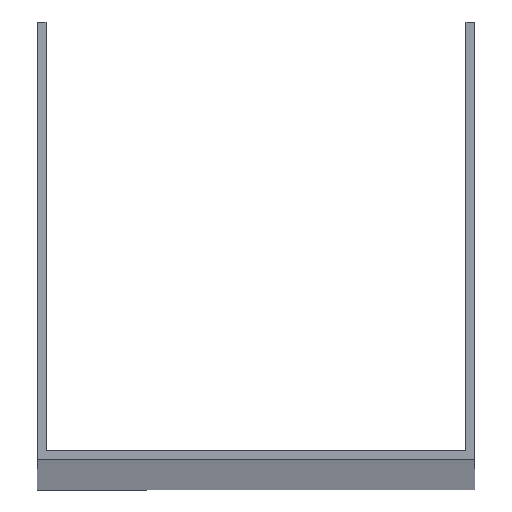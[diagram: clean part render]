
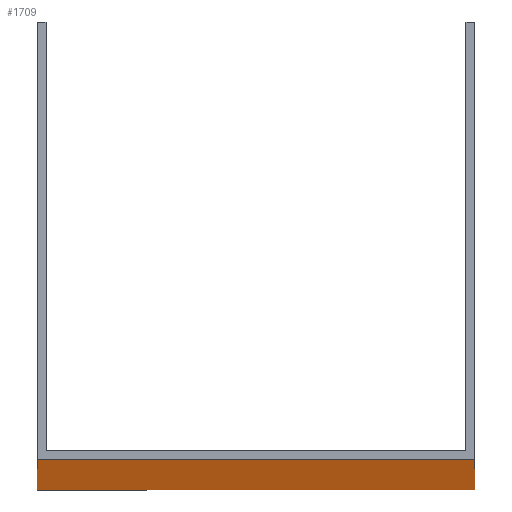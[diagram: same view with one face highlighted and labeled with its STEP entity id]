
A CAD part, top view. The second image highlights one B-rep face of the part: STEP entity #1709.
In plain terms, the highlighted planar face has unit normal (0, -1, 0).
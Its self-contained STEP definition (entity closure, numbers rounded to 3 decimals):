
#11 = CARTESIAN_POINT ( 'NONE',  ( -37.5, 0., 1500. ) ) ;
#45 = ORIENTED_EDGE ( 'NONE', *, *, #2203, .T. ) ;
#52 = CARTESIAN_POINT ( 'NONE',  ( -37.5, 0., -1500. ) ) ;
#89 = DIRECTION ( 'NONE',  ( 0., 1., 0. ) ) ;
#93 = CARTESIAN_POINT ( 'NONE',  ( -37.5, 0., -1500. ) ) ;
#444 = CARTESIAN_POINT ( 'NONE',  ( -37.5, 0., 1500. ) ) ;
#474 = DIRECTION ( 'NONE',  ( -1., 0., 0. ) ) ;
#529 = EDGE_LOOP ( 'NONE', ( #1827, #1521, #1611, #45 ) ) ;
#563 = DIRECTION ( 'NONE',  ( 1., 0., 0. ) ) ;
#629 = VECTOR ( 'NONE', #2327, 1000. ) ;
#787 = VECTOR ( 'NONE', #563, 1000. ) ;
#886 = LINE ( 'NONE', #1989, #988 ) ;
#902 = VERTEX_POINT ( 'NONE', #1367 ) ;
#988 = VECTOR ( 'NONE', #1039, 1000. ) ;
#1004 = LINE ( 'NONE', #52, #1632 ) ;
#1039 = DIRECTION ( 'NONE',  ( 0., 0., -1. ) ) ;
#1075 = FACE_OUTER_BOUND ( 'NONE', #529, .T. ) ;
#1134 = LINE ( 'NONE', #11, #629 ) ;
#1172 = VERTEX_POINT ( 'NONE', #2097 ) ;
#1255 = CARTESIAN_POINT ( 'NONE',  ( -37.5, 0., 1500. ) ) ;
#1367 = CARTESIAN_POINT ( 'NONE',  ( 37.5, 0., -1500. ) ) ;
#1395 = AXIS2_PLACEMENT_3D ( 'NONE', #1255, #89, #474 ) ;
#1521 = ORIENTED_EDGE ( 'NONE', *, *, #1698, .F. ) ;
#1548 = DIRECTION ( 'NONE',  ( 1., 0., 0. ) ) ;
#1611 = ORIENTED_EDGE ( 'NONE', *, *, #1916, .F. ) ;
#1618 = PLANE ( 'NONE',  #1395 ) ;
#1619 = VERTEX_POINT ( 'NONE', #444 ) ;
#1632 = VECTOR ( 'NONE', #1548, 1000. ) ;
#1680 = EDGE_CURVE ( 'NONE', #2324, #902, #1004, .T. ) ;
#1698 = EDGE_CURVE ( 'NONE', #1172, #902, #886, .T. ) ;
#1709 = ADVANCED_FACE ( 'NONE', ( #1075 ), #1618, .F. ) ;
#1827 = ORIENTED_EDGE ( 'NONE', *, *, #1680, .T. ) ;
#1916 = EDGE_CURVE ( 'NONE', #1619, #1172, #2291, .T. ) ;
#1989 = CARTESIAN_POINT ( 'NONE',  ( 37.5, 0., 1500. ) ) ;
#2077 = CARTESIAN_POINT ( 'NONE',  ( -37.5, 0., 1500. ) ) ;
#2097 = CARTESIAN_POINT ( 'NONE',  ( 37.5, 0., 1500. ) ) ;
#2203 = EDGE_CURVE ( 'NONE', #1619, #2324, #1134, .T. ) ;
#2291 = LINE ( 'NONE', #2077, #787 ) ;
#2324 = VERTEX_POINT ( 'NONE', #93 ) ;
#2327 = DIRECTION ( 'NONE',  ( 0., 0., -1. ) ) ;
